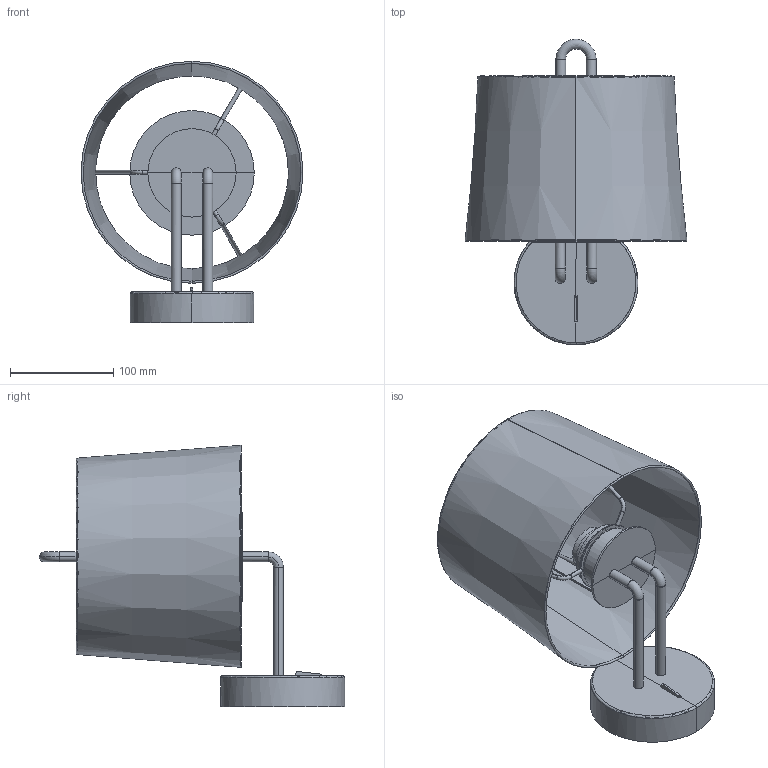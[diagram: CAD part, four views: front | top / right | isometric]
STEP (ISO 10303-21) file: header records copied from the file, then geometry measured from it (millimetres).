
FILE_DESCRIPTION(/* description */ (''),/* implementation_level */ '2;1');
FILE_NAME(/* name */ 'C:\Users\FrancoSartori\Documents\FARO\01_En Proceso\00_MONTREAL\03_Publicación\24031-01.stp',/* time_stamp */ '2021-06-04T10:19:10+02:00',/* author */ ('FrancoSartori'),/* organization */ (''),/* preprocessor_version */ 'ST-DEVELOPER v18.1',/* originating_system */ 'AutoCAD Mechanical',/* authorisation */ '');
FILE_SCHEMA (('AUTOMOTIVE_DESIGN { 1 0 10303 214 3 1 1 }'));
Length unit declared in the file: millimetre
Products named in the file (3): Product; 24030_24031_MONTREAL - MONTREAL-447159-Export; 2P0111_SHADE - Shade-448023-Export
Assembly tree (2 placements, depth 2):
  Product
    24030_24031_MONTREAL - MONTREAL-447159-Export
    2P0111_SHADE - Shade-448023-Export
Bounding box: 214.84 x 295.46 x 252.94 mm (x, y, z)
Volume: 304492.7 mm3; surface area: 556223.9 mm2
Topology: 15 solids, 16 shells, 220 faces, 482 edges, 278 vertices
Faces by surface type: plane 95, cylinder 81, torus 34, cone 10
Entity records: 8288 total; most frequent: CARTESIAN_POINT 3510, DIRECTION 966, ORIENTED_EDGE 956, EDGE_CURVE 482, AXIS2_PLACEMENT_3D 367, VERTEX_POINT 278, LINE 232, VECTOR 232
